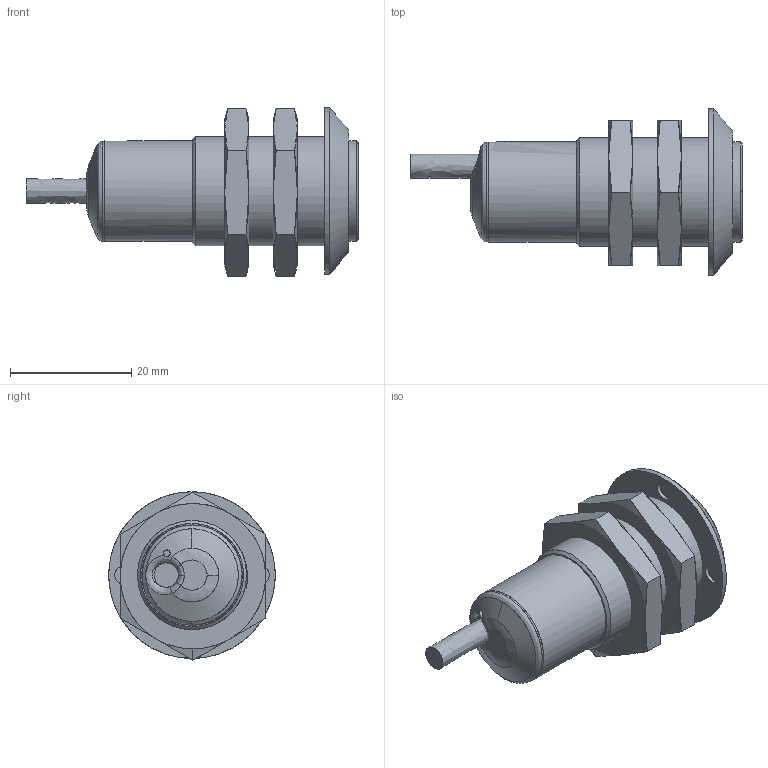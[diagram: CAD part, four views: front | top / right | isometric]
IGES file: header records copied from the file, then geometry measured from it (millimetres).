
Start section: C
Global section: file name: OR18.Zx-xWxZ.71CV.igs; native system:  By UGS Corp.; preprocessor: XPlus GENERIC/IGES 3.0; author: Author; organization: Title; date: 20160608.143507; units: millimetre
Bounding box: 54.8 x 27.44 x 27.81 mm (x, y, z)
Surface area: 6599.1 mm2 (no closed solid volume)
Topology: 0 solids, 0 shells, 152 faces, 759 edges, 759 vertices
Faces by surface type: bspline 152
